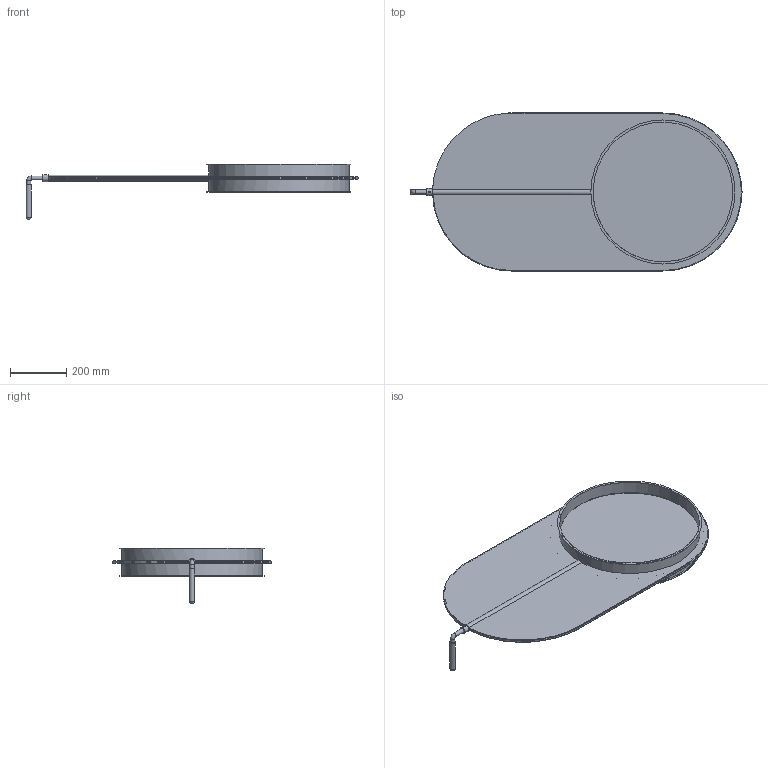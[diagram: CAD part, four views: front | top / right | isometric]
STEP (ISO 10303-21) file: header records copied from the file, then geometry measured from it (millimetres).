
FILE_DESCRIPTION((''),'2;1');
FILE_NAME('U:\Wolfgang\Marcel-3D\fertig\Kapitel 9\5021077.stp','2011-10-11T13:04:35',('iwienholt'),(''),'Autodesk Inventor 2010','Autodesk Inventor 2010','');
FILE_SCHEMA(('AUTOMOTIVE_DESIGN { 1 0 10303 214 1 1 1 1 }'));
Length unit declared in the file: millimetre
Products named in the file (3): 5021077; 5021077-1; Hebel-Ronde DN500
Assembly tree (2 placements, depth 2):
  5021077
    5021077-1
    Hebel-Ronde DN500
Bounding box: 1184.13 x 564 x 199.43 mm (x, y, z)
Volume: 2955257.5 mm3; surface area: 2315713.5 mm2
Topology: 2 solids, 2 shells, 49 faces, 125 edges, 80 vertices
Faces by surface type: cylinder 24, plane 19, torus 5, sphere 1
Full cylindrical faces by diameter (mm): 6.647 x1, 15 x2, 15.5 x1, 19 x1, 21 x1, 25 x1, 498 x2, 502 x2, 514 x2
Entity records: 1652 total; most frequent: CARTESIAN_POINT 495, DIRECTION 234, ORIENTED_EDGE 196, AXIS2_PLACEMENT_3D 100, EDGE_CURVE 98, EDGE_LOOP 72, VERTEX_POINT 70, FACE_OUTER_BOUND 49
